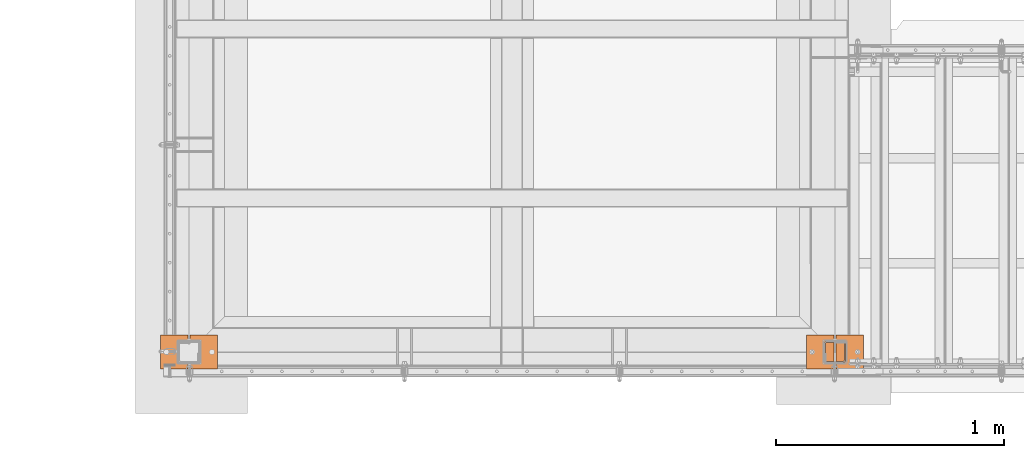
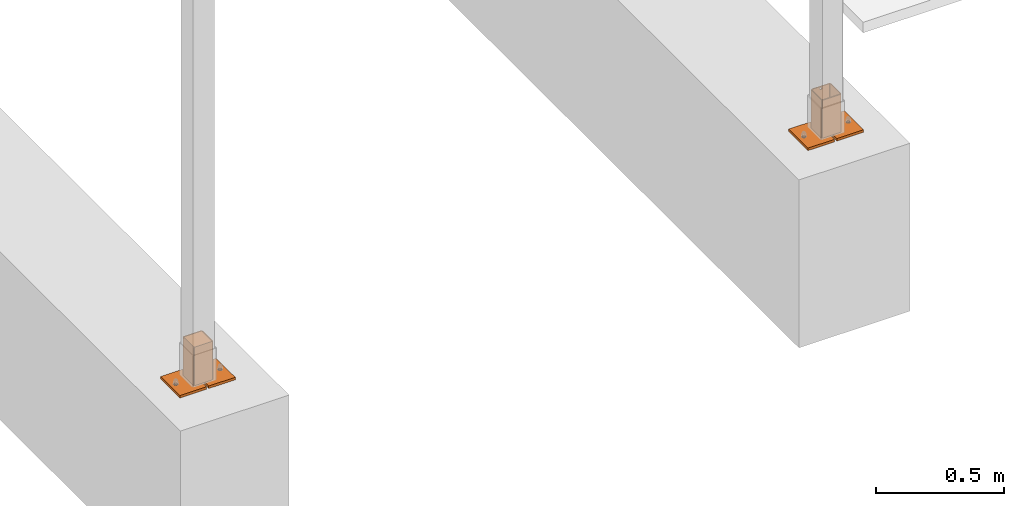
# One storey, part 90 of 116: 2 proxies.
"""IFC2X3 building model written with IfcOpenShell, lengths in millimetres."""

from ifc_helpers import new_model, entity, si_unit, converted_unit, origin_with_axes, place, context, project, spatial, faceted_brep, material, element, save


model = new_model("IFC2X3")

# Units and contexts
model_context = context("Model", 3, precision=1e-09, world=origin_with_axes())
ifc_project = project(units=[si_unit("LENGTHUNIT", "METRE", prefix="MILLI"), si_unit("AREAUNIT", "SQUARE_METRE"), si_unit("VOLUMEUNIT", "CUBIC_METRE"), converted_unit("PLANEANGLEUNIT", "DEGREE", entity("IfcPlaneAngleMeasure", 0.01745329), si_unit("PLANEANGLEUNIT", "RADIAN"), dimensions=[0, 0, 0, 0, 0, 0, 0])], contexts=[model_context])

# Site, building, storey
site_placement = place(None, origin_with_axes())
site = spatial("IfcSite", under=ifc_project, at=site_placement, Name="Site", CompositionType="ELEMENT")
building_placement = place(site_placement, origin_with_axes())
building = spatial("IfcBuilding", under=site, at=building_placement, Name="Struktur 1", CompositionType="ELEMENT")
storey_placement = place(building_placement, origin_with_axes())
storey = spatial("IfcBuildingStorey", under=building, at=storey_placement, Name="Default Storey", CompositionType="ELEMENT", Elevation=0.0)

# Proxies
ifc_material = material(Name="Kein")
proxy_1_placement = place(None, origin_with_axes())
element("IfcBuildingElementProxy", 1, at=proxy_1_placement, inside=storey, material=ifc_material, ObjectType="-", context=model_context, shape_type="Brep", body=[
    faceted_brep([(58275.050134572, 9132.358883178, -1997.0), (58275.050134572, 9132.358883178, -2009.0), (58273.978203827, 9128.358383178, -2009.0), (58273.978203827, 9128.358383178, -1997.0), (58271.049634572, 9125.429813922, -2009.0), (58271.049634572, 9125.429813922, -1997.0), (58273.978203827, 9136.359383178, -1997.0), (58273.978203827, 9136.359383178, -2009.0), (58271.049634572, 9139.287952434, -1997.0), (58271.049634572, 9139.287952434, -2009.0), (58292.049134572, 9207.358883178, -1997.0), (58172.049134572, 9207.358883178, -1997.0), (58172.049134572, 9057.358883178, -1997.0), (58292.049134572, 9057.358883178, -1997.0), (58267.049134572, 9124.357883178, -1997.0), (58263.048634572, 9125.429813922, -1997.0), (58260.120065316, 9128.358383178, -1997.0), (58259.048134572, 9132.358883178, -1997.0), (58260.120065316, 9136.359383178, -1997.0), (58263.048634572, 9139.287952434, -1997.0), (58267.049134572, 9140.359883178, -1997.0), (58267.049134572, 9124.357883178, -2009.0), (58292.049134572, 9057.358883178, -2009.0), (58172.049134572, 9057.358883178, -2009.0), (58172.049134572, 9207.358883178, -2009.0), (58292.049134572, 9207.358883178, -2009.0), (58263.048634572, 9125.429813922, -2009.0), (58267.049134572, 9140.359883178, -2009.0), (58263.048634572, 9139.287952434, -2009.0), (58260.120065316, 9136.359383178, -2009.0), (58259.048134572, 9132.358883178, -2009.0), (58260.120065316, 9128.358383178, -2009.0)], [[[0, 1, 2, 3]], [[3, 2, 4, 5]], [[1, 0, 6, 7]], [[7, 6, 8, 9]], [[10, 11, 12, 13], [8, 6, 0, 3, 5, 14, 15, 16, 17, 18, 19, 20]], [[5, 4, 21, 14]], [[22, 23, 24, 25], [26, 21, 4, 2, 1, 7, 9, 27, 28, 29, 30, 31]], [[9, 8, 20, 27]], [[14, 21, 26, 15]], [[10, 13, 22, 25]], [[27, 20, 19, 28]], [[25, 24, 11, 10]], [[13, 12, 23, 22]], [[15, 26, 31, 16]], [[24, 23, 12, 11]], [[28, 19, 18, 29]], [[16, 31, 30, 17]], [[29, 18, 17, 30]]]),
    faceted_brep([(58075.050134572, 9132.358883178, -1997.0), (58075.050134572, 9132.358883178, -2009.0), (58073.978203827, 9128.358383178, -2009.0), (58073.978203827, 9128.358383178, -1997.0), (58071.049634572, 9125.429813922, -2009.0), (58071.049634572, 9125.429813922, -1997.0), (58162.049134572, 9207.358883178, -1997.0), (58042.049134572, 9207.358883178, -1997.0), (58042.049134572, 9057.358883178, -1997.0), (58162.049134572, 9057.358883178, -1997.0), (58071.049634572, 9139.287952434, -1997.0), (58073.978203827, 9136.359383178, -1997.0), (58067.049134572, 9124.357883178, -1997.0), (58063.048634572, 9125.429813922, -1997.0), (58060.120065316, 9128.358383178, -1997.0), (58059.048134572, 9132.358883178, -1997.0), (58060.120065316, 9136.359383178, -1997.0), (58063.048634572, 9139.287952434, -1997.0), (58067.049134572, 9140.359883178, -1997.0), (58073.978203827, 9136.359383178, -2009.0), (58067.049134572, 9124.357883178, -2009.0), (58162.049134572, 9057.358883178, -2009.0), (58042.049134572, 9057.358883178, -2009.0), (58042.049134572, 9207.358883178, -2009.0), (58162.049134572, 9207.358883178, -2009.0), (58071.049634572, 9139.287952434, -2009.0), (58067.049134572, 9140.359883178, -2009.0), (58063.048634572, 9139.287952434, -2009.0), (58060.120065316, 9136.359383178, -2009.0), (58059.048134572, 9132.358883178, -2009.0), (58060.120065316, 9128.358383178, -2009.0), (58063.048634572, 9125.429813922, -2009.0)], [[[0, 1, 2, 3]], [[3, 2, 4, 5]], [[6, 7, 8, 9], [10, 11, 0, 3, 5, 12, 13, 14, 15, 16, 17, 18]], [[1, 0, 11, 19]], [[5, 4, 20, 12]], [[21, 22, 23, 24], [20, 4, 2, 1, 19, 25, 26, 27, 28, 29, 30, 31]], [[19, 11, 10, 25]], [[12, 20, 31, 13]], [[21, 24, 6, 9]], [[9, 8, 22, 21]], [[24, 23, 7, 6]], [[25, 10, 18, 26]], [[13, 31, 30, 14]], [[26, 18, 17, 27]], [[8, 7, 23, 22]], [[14, 30, 29, 15]], [[27, 17, 16, 28]], [[15, 29, 28, 16]]]),
    faceted_brep([(58210.977337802, 9091.358883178, -1997.0), (58210.977337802, 9091.358883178, -1817.0), (58208.049134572, 9088.430679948, -1817.0), (58208.049134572, 9088.430679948, -1997.0), (58212.049134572, 9095.358883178, -1817.0), (58212.049134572, 9169.358883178, -1817.0), (58210.977337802, 9173.358883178, -1817.0), (58208.049134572, 9176.287086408, -1817.0), (58204.049134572, 9177.358883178, -1817.0), (58130.049134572, 9177.358883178, -1817.0), (58126.049134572, 9176.287086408, -1817.0), (58123.120931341, 9173.358883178, -1817.0), (58122.049134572, 9169.358883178, -1817.0), (58122.049134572, 9095.358883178, -1817.0), (58123.120931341, 9091.358883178, -1817.0), (58126.049134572, 9088.430679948, -1817.0), (58130.049134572, 9087.358883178, -1817.0), (58204.049134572, 9087.358883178, -1817.0), (58208.049134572, 9095.358883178, -1817.0), (58207.513236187, 9093.358883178, -1817.0), (58206.049134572, 9091.894781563, -1817.0), (58204.049134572, 9091.358883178, -1817.0), (58130.049134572, 9091.358883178, -1817.0), (58128.049134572, 9091.894781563, -1817.0), (58126.585032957, 9093.358883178, -1817.0), (58126.049134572, 9095.358883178, -1817.0), (58126.049134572, 9169.358883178, -1817.0), (58126.585032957, 9171.358883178, -1817.0), (58128.049134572, 9172.822984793, -1817.0), (58130.049134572, 9173.358883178, -1817.0), (58204.049134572, 9173.358883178, -1817.0), (58206.049134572, 9172.822984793, -1817.0), (58207.513236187, 9171.358883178, -1817.0), (58208.049134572, 9169.358883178, -1817.0), (58206.049134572, 9091.894781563, -1997.0), (58207.513236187, 9093.358883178, -1997.0), (58212.049134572, 9169.358883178, -1997.0), (58212.049134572, 9095.358883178, -1997.0), (58204.049134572, 9087.358883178, -1997.0), (58130.049134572, 9087.358883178, -1997.0), (58126.049134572, 9088.430679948, -1997.0), (58123.120931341, 9091.358883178, -1997.0), (58122.049134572, 9095.358883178, -1997.0), (58122.049134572, 9169.358883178, -1997.0), (58123.120931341, 9173.358883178, -1997.0), (58126.049134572, 9176.287086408, -1997.0), (58130.049134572, 9177.358883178, -1997.0), (58204.049134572, 9177.358883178, -1997.0), (58208.049134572, 9176.287086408, -1997.0), (58210.977337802, 9173.358883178, -1997.0), (58208.049134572, 9095.358883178, -1997.0), (58208.049134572, 9169.358883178, -1997.0), (58207.513236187, 9171.358883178, -1997.0), (58206.049134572, 9172.822984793, -1997.0), (58204.049134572, 9173.358883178, -1997.0), (58130.049134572, 9173.358883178, -1997.0), (58128.049134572, 9172.822984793, -1997.0), (58126.585032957, 9171.358883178, -1997.0), (58126.049134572, 9169.358883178, -1997.0), (58126.049134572, 9095.358883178, -1997.0), (58126.585032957, 9093.358883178, -1997.0), (58128.049134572, 9091.894781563, -1997.0), (58130.049134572, 9091.358883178, -1997.0), (58204.049134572, 9091.358883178, -1997.0), (58172.050134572, 9177.358883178, -1827.0), (58172.050134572, 9173.358883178, -1827.0), (58171.380127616, 9173.358883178, -1824.4995), (58171.380127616, 9177.358883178, -1824.4995), (58171.380127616, 9177.358883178, -1829.5005), (58171.380127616, 9173.358883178, -1829.5005), (58169.549634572, 9173.358883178, -1822.669006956), (58169.549634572, 9177.358883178, -1822.669006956), (58169.549634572, 9177.358883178, -1831.330993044), (58167.049134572, 9177.358883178, -1821.999), (58164.548634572, 9177.358883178, -1822.669006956), (58162.718141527, 9177.358883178, -1824.4995), (58162.048134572, 9177.358883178, -1827.0), (58162.718141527, 9177.358883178, -1829.5005), (58164.548634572, 9177.358883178, -1831.330993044), (58167.049134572, 9177.358883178, -1832.001), (58169.549634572, 9173.358883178, -1831.330993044), (58167.049134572, 9173.358883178, -1832.001), (58164.548634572, 9173.358883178, -1831.330993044), (58162.718141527, 9173.358883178, -1829.5005), (58162.048134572, 9173.358883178, -1827.0), (58162.718141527, 9173.358883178, -1824.4995), (58164.548634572, 9173.358883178, -1822.669006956), (58167.049134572, 9173.358883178, -1821.999)], [[[0, 1, 2, 3]], [[1, 4, 5, 6, 7, 8, 9, 10, 11, 12, 13, 14, 15, 16, 17, 2], [18, 19, 20, 21, 22, 23, 24, 25, 26, 27, 28, 29, 30, 31, 32, 33]], [[34, 20, 19, 35]], [[36, 37, 0, 3, 38, 39, 40, 41, 42, 43, 44, 45, 46, 47, 48, 49], [35, 50, 51, 52, 53, 54, 55, 56, 57, 58, 59, 60, 61, 62, 63, 34]], [[1, 0, 37, 4]], [[20, 34, 63, 21]], [[3, 2, 17, 38]], [[35, 19, 18, 50]], [[37, 36, 5, 4]], [[63, 62, 22, 21]], [[17, 16, 39, 38]], [[18, 33, 51, 50]], [[5, 36, 49, 6]], [[22, 62, 61, 23]], [[39, 16, 15, 40]], [[64, 65, 66, 67]], [[51, 33, 32, 52]], [[65, 64, 68, 69]], [[67, 66, 70, 71]], [[8, 47, 46, 9], [72, 68, 64, 67, 71, 73, 74, 75, 76, 77, 78, 79]], [[6, 49, 48, 7]], [[52, 32, 31, 53]], [[30, 29, 55, 54], [70, 66, 65, 69, 80, 81, 82, 83, 84, 85, 86, 87]], [[23, 61, 60, 24]], [[40, 15, 14, 41]], [[71, 70, 87, 73]], [[73, 87, 86, 74]], [[30, 54, 53, 31]], [[69, 68, 72, 80]], [[74, 86, 85, 75]], [[7, 48, 47, 8]], [[80, 72, 79, 81]], [[81, 79, 78, 82]], [[24, 60, 59, 25]], [[41, 14, 13, 42]], [[75, 85, 84, 76]], [[83, 77, 76, 84]], [[82, 78, 77, 83]], [[59, 58, 26, 25]], [[13, 12, 43, 42]], [[26, 58, 57, 27]], [[55, 29, 28, 56]], [[56, 28, 27, 57]], [[43, 12, 11, 44]], [[9, 46, 45, 10]], [[44, 11, 10, 45]]]),
])
proxy_2_placement = place(None, origin_with_axes())
element("IfcBuildingElementProxy", 2, at=proxy_2_placement, inside=storey, material=ifc_material, ObjectType="-", context=model_context, shape_type="Brep", body=[
    faceted_brep([(55229.048134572, 9132.358883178, -2197.0), (55229.048134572, 9132.358883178, -2185.0), (55230.120065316, 9128.358383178, -2185.0), (55230.120065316, 9128.358383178, -2197.0), (55233.048634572, 9125.429813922, -2185.0), (55233.048634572, 9125.429813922, -2197.0), (55230.120065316, 9136.359383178, -2197.0), (55230.120065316, 9136.359383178, -2185.0), (55233.048634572, 9139.287952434, -2197.0), (55233.048634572, 9139.287952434, -2185.0), (55212.049134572, 9207.358883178, -2185.0), (55212.049134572, 9057.358883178, -2185.0), (55332.049134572, 9057.358883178, -2185.0), (55332.049134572, 9207.358883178, -2185.0), (55237.049134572, 9140.359883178, -2185.0), (55241.049634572, 9139.287952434, -2185.0), (55243.978203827, 9136.359383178, -2185.0), (55245.050134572, 9132.358883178, -2185.0), (55243.978203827, 9128.358383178, -2185.0), (55241.049634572, 9125.429813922, -2185.0), (55237.049134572, 9124.357883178, -2185.0), (55237.049134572, 9124.357883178, -2197.0), (55212.049134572, 9057.358883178, -2197.0), (55212.049134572, 9207.358883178, -2197.0), (55332.049134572, 9207.358883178, -2197.0), (55332.049134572, 9057.358883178, -2197.0), (55241.049634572, 9125.429813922, -2197.0), (55243.978203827, 9128.358383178, -2197.0), (55245.050134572, 9132.358883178, -2197.0), (55243.978203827, 9136.359383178, -2197.0), (55241.049634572, 9139.287952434, -2197.0), (55237.049134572, 9140.359883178, -2197.0)], [[[0, 1, 2, 3]], [[3, 2, 4, 5]], [[1, 0, 6, 7]], [[7, 6, 8, 9]], [[10, 11, 12, 13], [7, 9, 14, 15, 16, 17, 18, 19, 20, 4, 2, 1]], [[5, 4, 20, 21]], [[22, 23, 24, 25], [21, 26, 27, 28, 29, 30, 31, 8, 6, 0, 3, 5]], [[9, 8, 31, 14]], [[21, 20, 19, 26]], [[11, 10, 23, 22]], [[14, 31, 30, 15]], [[24, 23, 10, 13]], [[12, 11, 22, 25]], [[26, 19, 18, 27]], [[25, 24, 13, 12]], [[15, 30, 29, 16]], [[27, 18, 17, 28]], [[16, 29, 28, 17]]]),
    faceted_brep([(55429.048134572, 9132.358883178, -2197.0), (55429.048134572, 9132.358883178, -2185.0), (55430.120065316, 9128.358383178, -2185.0), (55430.120065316, 9128.358383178, -2197.0), (55433.048634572, 9125.429813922, -2185.0), (55433.048634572, 9125.429813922, -2197.0), (55342.049134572, 9207.358883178, -2185.0), (55342.049134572, 9057.358883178, -2185.0), (55462.049134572, 9057.358883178, -2185.0), (55462.049134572, 9207.358883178, -2185.0), (55430.120065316, 9136.359383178, -2185.0), (55433.048634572, 9139.287952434, -2185.0), (55437.049134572, 9140.359883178, -2185.0), (55441.049634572, 9139.287952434, -2185.0), (55443.978203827, 9136.359383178, -2185.0), (55445.050134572, 9132.358883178, -2185.0), (55443.978203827, 9128.358383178, -2185.0), (55441.049634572, 9125.429813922, -2185.0), (55437.049134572, 9124.357883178, -2185.0), (55430.120065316, 9136.359383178, -2197.0), (55437.049134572, 9124.357883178, -2197.0), (55441.049634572, 9125.429813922, -2197.0), (55443.978203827, 9128.358383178, -2197.0), (55445.050134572, 9132.358883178, -2197.0), (55443.978203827, 9136.359383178, -2197.0), (55441.049634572, 9139.287952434, -2197.0), (55437.049134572, 9140.359883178, -2197.0), (55433.048634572, 9139.287952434, -2197.0), (55342.049134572, 9207.358883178, -2197.0), (55342.049134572, 9057.358883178, -2197.0), (55462.049134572, 9057.358883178, -2197.0), (55462.049134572, 9207.358883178, -2197.0)], [[[0, 1, 2, 3]], [[3, 2, 4, 5]], [[6, 7, 8, 9], [10, 11, 12, 13, 14, 15, 16, 17, 18, 4, 2, 1]], [[1, 0, 19, 10]], [[5, 4, 18, 20]], [[5, 20, 21, 22, 23, 24, 25, 26, 27, 19, 0, 3]], [[10, 19, 27, 11]], [[20, 18, 17, 21]], [[28, 29, 7, 6]], [[8, 7, 29, 30]], [[31, 28, 6, 9]], [[11, 27, 26, 12]], [[21, 17, 16, 22]], [[12, 26, 25, 13]], [[9, 8, 30, 31]], [[22, 16, 15, 23]], [[13, 25, 24, 14]], [[23, 15, 14, 24]]]),
    faceted_brep([(55293.120931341, 9091.358883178, -2005.0), (55293.120931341, 9091.358883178, -2185.0), (55296.049134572, 9088.430679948, -2185.0), (55296.049134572, 9088.430679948, -2005.0), (55296.585032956, 9093.358883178, -2005.0), (55296.049134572, 9095.358883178, -2005.0), (55296.049134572, 9169.358883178, -2005.0), (55296.585032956, 9171.358883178, -2005.0), (55298.049134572, 9172.822984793, -2005.0), (55300.049134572, 9173.358883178, -2005.0), (55374.049134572, 9173.358883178, -2005.0), (55376.049134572, 9172.822984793, -2005.0), (55377.513236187, 9171.358883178, -2005.0), (55378.049134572, 9169.358883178, -2005.0), (55378.049134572, 9095.358883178, -2005.0), (55377.513236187, 9093.358883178, -2005.0), (55376.049134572, 9091.894781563, -2005.0), (55374.049134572, 9091.358883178, -2005.0), (55300.049134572, 9091.358883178, -2005.0), (55298.049134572, 9091.894781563, -2005.0), (55298.049134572, 9091.894781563, -2185.0), (55296.585032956, 9093.358883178, -2185.0), (55292.049134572, 9095.358883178, -2185.0), (55292.049134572, 9169.358883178, -2185.0), (55293.120931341, 9173.358883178, -2185.0), (55296.049134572, 9176.287086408, -2185.0), (55300.049134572, 9177.358883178, -2185.0), (55374.049134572, 9177.358883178, -2185.0), (55378.049134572, 9176.287086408, -2185.0), (55380.977337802, 9173.358883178, -2185.0), (55382.049134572, 9169.358883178, -2185.0), (55382.049134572, 9095.358883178, -2185.0), (55380.977337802, 9091.358883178, -2185.0), (55378.049134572, 9088.430679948, -2185.0), (55374.049134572, 9087.358883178, -2185.0), (55300.049134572, 9087.358883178, -2185.0), (55300.049134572, 9091.358883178, -2185.0), (55374.049134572, 9091.358883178, -2185.0), (55376.049134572, 9091.894781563, -2185.0), (55377.513236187, 9093.358883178, -2185.0), (55378.049134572, 9095.358883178, -2185.0), (55378.049134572, 9169.358883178, -2185.0), (55377.513236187, 9171.358883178, -2185.0), (55376.049134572, 9172.822984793, -2185.0), (55374.049134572, 9173.358883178, -2185.0), (55300.049134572, 9173.358883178, -2185.0), (55298.049134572, 9172.822984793, -2185.0), (55296.585032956, 9171.358883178, -2185.0), (55296.049134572, 9169.358883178, -2185.0), (55296.049134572, 9095.358883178, -2185.0), (55292.049134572, 9095.358883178, -2005.0), (55300.049134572, 9087.358883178, -2005.0), (55292.049134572, 9169.358883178, -2005.0), (55374.049134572, 9087.358883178, -2005.0), (55293.120931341, 9173.358883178, -2005.0), (55378.049134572, 9088.430679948, -2005.0), (55332.048134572, 9173.358883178, -2015.0), (55332.048134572, 9177.358883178, -2015.0), (55332.718141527, 9177.358883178, -2012.4995), (55332.718141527, 9173.358883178, -2012.4995), (55332.718141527, 9173.358883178, -2017.5005), (55332.718141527, 9177.358883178, -2017.5005), (55334.548634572, 9177.358883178, -2010.669006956), (55334.548634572, 9173.358883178, -2010.669006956), (55300.049134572, 9177.358883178, -2005.0), (55374.049134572, 9177.358883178, -2005.0), (55334.548634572, 9177.358883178, -2019.330993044), (55337.049134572, 9177.358883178, -2020.001), (55339.549634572, 9177.358883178, -2019.330993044), (55341.380127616, 9177.358883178, -2017.5005), (55342.050134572, 9177.358883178, -2015.0), (55341.380127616, 9177.358883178, -2012.4995), (55339.549634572, 9177.358883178, -2010.669006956), (55337.049134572, 9177.358883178, -2009.999), (55296.049134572, 9176.287086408, -2005.0), (55337.049134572, 9173.358883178, -2009.999), (55339.549634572, 9173.358883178, -2010.669006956), (55341.380127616, 9173.358883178, -2012.4995), (55342.050134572, 9173.358883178, -2015.0), (55341.380127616, 9173.358883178, -2017.5005), (55339.549634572, 9173.358883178, -2019.330993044), (55337.049134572, 9173.358883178, -2020.001), (55334.548634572, 9173.358883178, -2019.330993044), (55380.977337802, 9091.358883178, -2005.0), (55382.049134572, 9095.358883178, -2005.0), (55382.049134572, 9169.358883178, -2005.0), (55380.977337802, 9173.358883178, -2005.0), (55378.049134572, 9176.287086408, -2005.0)], [[[0, 1, 2, 3]], [[4, 5, 6, 7, 8, 9, 10, 11, 12, 13, 14, 15, 16, 17, 18, 19]], [[19, 20, 21, 4]], [[22, 23, 24, 25, 26, 27, 28, 29, 30, 31, 32, 33, 34, 35, 2, 1], [21, 20, 36, 37, 38, 39, 40, 41, 42, 43, 44, 45, 46, 47, 48, 49]], [[1, 0, 50, 22]], [[20, 19, 18, 36]], [[3, 2, 35, 51]], [[4, 21, 49, 5]], [[23, 22, 50, 52]], [[37, 36, 18, 17]], [[53, 51, 35, 34]], [[6, 5, 49, 48]], [[23, 52, 54, 24]], [[37, 17, 16, 38]], [[53, 34, 33, 55]], [[56, 57, 58, 59]], [[6, 48, 47, 7]], [[57, 56, 60, 61]], [[59, 58, 62, 63]], [[64, 65, 27, 26], [61, 66, 67, 68, 69, 70, 71, 72, 73, 62, 58, 57]], [[24, 54, 74, 25]], [[7, 47, 46, 8]], [[9, 45, 44, 10], [59, 63, 75, 76, 77, 78, 79, 80, 81, 82, 60, 56]], [[38, 16, 15, 39]], [[55, 33, 32, 83]], [[63, 62, 73, 75]], [[75, 73, 72, 76]], [[45, 9, 8, 46]], [[61, 60, 82, 66]], [[76, 72, 71, 77]], [[25, 74, 64, 26]], [[66, 82, 81, 67]], [[67, 81, 80, 68]], [[39, 15, 14, 40]], [[83, 32, 31, 84]], [[77, 71, 70, 78]], [[69, 79, 78, 70]], [[68, 80, 79, 69]], [[41, 40, 14, 13]], [[85, 84, 31, 30]], [[41, 13, 12, 42]], [[10, 44, 43, 11]], [[11, 43, 42, 12]], [[85, 30, 29, 86]], [[27, 65, 87, 28]], [[86, 29, 28, 87]]]),
])

save(model, "model.ifc")
